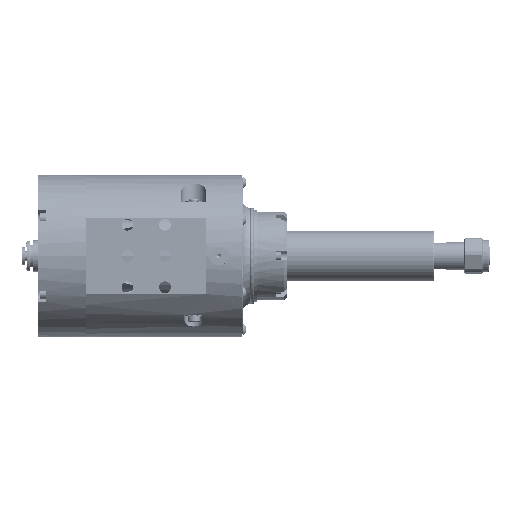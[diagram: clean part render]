
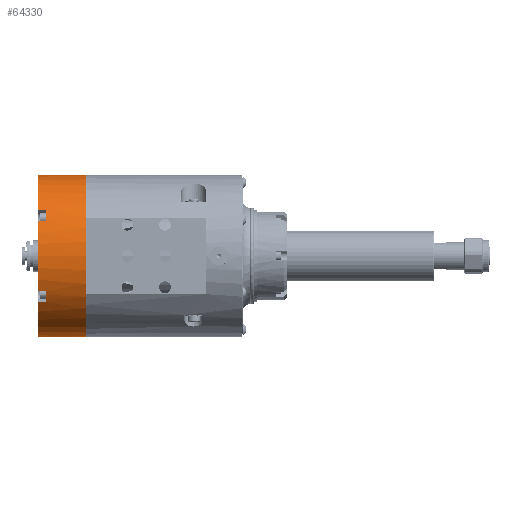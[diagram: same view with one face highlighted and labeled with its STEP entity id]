
A CAD part, front view. The second image highlights one B-rep face of the part: STEP entity #64330.
In plain terms, the highlighted cylindrical face has radius 41.275 mm (diameter 82.55 mm), a partial arc.
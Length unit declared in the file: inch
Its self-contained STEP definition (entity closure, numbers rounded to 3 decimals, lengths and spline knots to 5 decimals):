
#2197 = VERTEX_POINT ( 'NONE', #64555 ) ;
#2997 = CARTESIAN_POINT ( 'NONE',  ( -1.61995, -0.12795, 0.95 ) ) ;
#3017 = DIRECTION ( 'NONE',  ( 1., 0., 0. ) ) ;
#3115 = CARTESIAN_POINT ( 'NONE',  ( 0., 0., 0.79252 ) ) ;
#3523 = EDGE_CURVE ( 'NONE', #49978, #77626, #37363, .T. ) ;
#3529 = DIRECTION ( 'NONE',  ( 0., 0., 1. ) ) ;
#4568 = VECTOR ( 'NONE', #27682, 39.37008 ) ;
#4685 = EDGE_CURVE ( 'NONE', #41003, #58922, #74088, .T. ) ;
#4735 = VECTOR ( 'NONE', #13852, 39.37008 ) ;
#4989 = DIRECTION ( 'NONE',  ( 1., 0., 0. ) ) ;
#6345 = DIRECTION ( 'NONE',  ( 0., 0., 1. ) ) ;
#6980 = CARTESIAN_POINT ( 'NONE',  ( 0.69917, -1.4669, 0.79252 ) ) ;
#7502 = EDGE_CURVE ( 'NONE', #17562, #19701, #18677, .T. ) ;
#7981 = CARTESIAN_POINT ( 'NONE',  ( -0.92079, -1.33895, 0.79252 ) ) ;
#9937 = EDGE_CURVE ( 'NONE', #2197, #49978, #68809, .T. ) ;
#10062 = CARTESIAN_POINT ( 'NONE',  ( 1.625, 0., 0.95 ) ) ;
#10415 = CARTESIAN_POINT ( 'NONE',  ( -0.92079, -1.33895, 0.95 ) ) ;
#10728 = CIRCLE ( 'NONE', #49461, 1.625 ) ;
#11067 = CARTESIAN_POINT ( 'NONE',  ( 0., 0., 0.95 ) ) ;
#11818 = AXIS2_PLACEMENT_3D ( 'NONE', #3115, #95565, #94571 ) ;
#12612 = CARTESIAN_POINT ( 'NONE',  ( 0., 0., 0. ) ) ;
#13326 = ORIENTED_EDGE ( 'NONE', *, *, #77478, .T. ) ;
#13651 = ORIENTED_EDGE ( 'NONE', *, *, #28833, .F. ) ;
#13852 = DIRECTION ( 'NONE',  ( 0., 0., -1. ) ) ;
#14374 = AXIS2_PLACEMENT_3D ( 'NONE', #58986, #20060, #4989 ) ;
#14503 = EDGE_CURVE ( 'NONE', #41003, #92777, #64956, .T. ) ;
#17562 = VERTEX_POINT ( 'NONE', #60333 ) ;
#18036 = ORIENTED_EDGE ( 'NONE', *, *, #93086, .F. ) ;
#18081 = CARTESIAN_POINT ( 'NONE',  ( -0.69917, -1.4669, 0.95 ) ) ;
#18677 = LINE ( 'NONE', #42945, #92883 ) ;
#19057 = CIRCLE ( 'NONE', #38507, 1.625 ) ;
#19093 = EDGE_CURVE ( 'NONE', #19701, #26747, #68082, .T. ) ;
#19338 = CIRCLE ( 'NONE', #61308, 1.625 ) ;
#19701 = VERTEX_POINT ( 'NONE', #60165 ) ;
#20060 = DIRECTION ( 'NONE',  ( 0., 0., 1. ) ) ;
#20228 = CARTESIAN_POINT ( 'NONE',  ( -1.61995, -0.12795, 0.79252 ) ) ;
#21520 = ORIENTED_EDGE ( 'NONE', *, *, #52440, .T. ) ;
#23169 = CARTESIAN_POINT ( 'NONE',  ( -0.92079, -1.33895, 0.95 ) ) ;
#23478 = EDGE_CURVE ( 'NONE', #23969, #2197, #27532, .T. ) ;
#23969 = VERTEX_POINT ( 'NONE', #18081 ) ;
#24519 = CARTESIAN_POINT ( 'NONE',  ( 0., 0., 0.95 ) ) ;
#26747 = VERTEX_POINT ( 'NONE', #41173 ) ;
#26764 = CARTESIAN_POINT ( 'NONE',  ( 1.61995, -0.12795, 0.79252 ) ) ;
#27532 = LINE ( 'NONE', #89165, #4735 ) ;
#27682 = DIRECTION ( 'NONE',  ( 0., 0., 1. ) ) ;
#28440 = AXIS2_PLACEMENT_3D ( 'NONE', #36591, #82061, #35087 ) ;
#28833 = EDGE_CURVE ( 'NONE', #92752, #26747, #72172, .T. ) ;
#30025 = CARTESIAN_POINT ( 'NONE',  ( 0.69917, -1.4669, 0.95 ) ) ;
#30904 = DIRECTION ( 'NONE',  ( 1., 0., 0. ) ) ;
#31828 = DIRECTION ( 'NONE',  ( 0., 0., -1. ) ) ;
#32618 = EDGE_CURVE ( 'NONE', #89399, #40454, #72265, .T. ) ;
#35087 = DIRECTION ( 'NONE',  ( -1., 0., 0. ) ) ;
#36591 = CARTESIAN_POINT ( 'NONE',  ( 0., 0., 0.79252 ) ) ;
#37363 = LINE ( 'NONE', #23169, #93316 ) ;
#37568 = ORIENTED_EDGE ( 'NONE', *, *, #9937, .T. ) ;
#38507 = AXIS2_PLACEMENT_3D ( 'NONE', #11067, #3529, #3017 ) ;
#40018 = VECTOR ( 'NONE', #93971, 39.37008 ) ;
#40454 = VERTEX_POINT ( 'NONE', #30025 ) ;
#41003 = VERTEX_POINT ( 'NONE', #53428 ) ;
#41018 = ORIENTED_EDGE ( 'NONE', *, *, #3523, .T. ) ;
#41173 = CARTESIAN_POINT ( 'NONE',  ( 1.625, 0., 0. ) ) ;
#41445 = CARTESIAN_POINT ( 'NONE',  ( 0.69917, -1.4669, 0.95 ) ) ;
#41464 = ORIENTED_EDGE ( 'NONE', *, *, #7502, .T. ) ;
#42939 = DIRECTION ( 'NONE',  ( 0., 0., 1. ) ) ;
#42945 = CARTESIAN_POINT ( 'NONE',  ( -1.625, 0., 0.95 ) ) ;
#42993 = VERTEX_POINT ( 'NONE', #20228 ) ;
#43255 = ORIENTED_EDGE ( 'NONE', *, *, #19093, .T. ) ;
#43329 = ORIENTED_EDGE ( 'NONE', *, *, #52576, .F. ) ;
#43365 = CARTESIAN_POINT ( 'NONE',  ( 1.61995, -0.12795, 0.95 ) ) ;
#45514 = DIRECTION ( 'NONE',  ( -1., 0., 0. ) ) ;
#46728 = ORIENTED_EDGE ( 'NONE', *, *, #74093, .T. ) ;
#48627 = EDGE_LOOP ( 'NONE', ( #13651, #70415, #13326, #60532, #53633, #21520, #74804, #18036, #92070, #37568, #41018, #43329, #70629, #46728, #41464, #43255 ) ) ;
#49461 = AXIS2_PLACEMENT_3D ( 'NONE', #73644, #50430, #89789 ) ;
#49978 = VERTEX_POINT ( 'NONE', #7981 ) ;
#50430 = DIRECTION ( 'NONE',  ( 0., 0., -1. ) ) ;
#51521 = DIRECTION ( 'NONE',  ( 1., 0., 0. ) ) ;
#51928 = LINE ( 'NONE', #43365, #4568 ) ;
#52440 = EDGE_CURVE ( 'NONE', #92777, #89399, #99764, .T. ) ;
#52576 = EDGE_CURVE ( 'NONE', #72118, #77626, #19057, .T. ) ;
#53426 = EDGE_CURVE ( 'NONE', #72118, #42993, #66117, .T. ) ;
#53428 = CARTESIAN_POINT ( 'NONE',  ( 0.92079, -1.33895, 0.95 ) ) ;
#53633 = ORIENTED_EDGE ( 'NONE', *, *, #14503, .T. ) ;
#54065 = CARTESIAN_POINT ( 'NONE',  ( 0., 0., 0.79252 ) ) ;
#55333 = DIRECTION ( 'NONE',  ( -1., 0., 0. ) ) ;
#57020 = DIRECTION ( 'NONE',  ( 0., 0., -1. ) ) ;
#58301 = VECTOR ( 'NONE', #77876, 39.37008 ) ;
#58617 = DIRECTION ( 'NONE',  ( 0., 0., -1. ) ) ;
#58922 = VERTEX_POINT ( 'NONE', #62713 ) ;
#58986 = CARTESIAN_POINT ( 'NONE',  ( 0., 0., 0.95 ) ) ;
#60165 = CARTESIAN_POINT ( 'NONE',  ( -1.625, 0., 0. ) ) ;
#60333 = CARTESIAN_POINT ( 'NONE',  ( -1.625, 0., 0.79252 ) ) ;
#60532 = ORIENTED_EDGE ( 'NONE', *, *, #4685, .F. ) ;
#61308 = AXIS2_PLACEMENT_3D ( 'NONE', #75489, #6345, #30904 ) ;
#61666 = AXIS2_PLACEMENT_3D ( 'NONE', #12612, #42939, #51521 ) ;
#62713 = CARTESIAN_POINT ( 'NONE',  ( 1.61995, -0.12795, 0.95 ) ) ;
#63502 = CIRCLE ( 'NONE', #11818, 1.625 ) ;
#64330 = ADVANCED_FACE ( 'NONE', ( #77044 ), #93750, .T. ) ;
#64555 = CARTESIAN_POINT ( 'NONE',  ( -0.69917, -1.4669, 0.79252 ) ) ;
#64956 = LINE ( 'NONE', #95782, #85566 ) ;
#66117 = LINE ( 'NONE', #2997, #67634 ) ;
#67634 = VECTOR ( 'NONE', #57020, 39.37008 ) ;
#67664 = DIRECTION ( 'NONE',  ( 0., 0., 1. ) ) ;
#68082 = CIRCLE ( 'NONE', #61666, 1.625 ) ;
#68809 = CIRCLE ( 'NONE', #28440, 1.625 ) ;
#70415 = ORIENTED_EDGE ( 'NONE', *, *, #84082, .T. ) ;
#70556 = CARTESIAN_POINT ( 'NONE',  ( 1.625, 0., 0.79252 ) ) ;
#70629 = ORIENTED_EDGE ( 'NONE', *, *, #53426, .T. ) ;
#71538 = DIRECTION ( 'NONE',  ( 0., 0., -1. ) ) ;
#72118 = VERTEX_POINT ( 'NONE', #81339 ) ;
#72172 = LINE ( 'NONE', #10062, #40018 ) ;
#72265 = LINE ( 'NONE', #41445, #58301 ) ;
#73644 = CARTESIAN_POINT ( 'NONE',  ( 0., 0., 0.79252 ) ) ;
#74088 = CIRCLE ( 'NONE', #14374, 1.625 ) ;
#74093 = EDGE_CURVE ( 'NONE', #42993, #17562, #10728, .T. ) ;
#74804 = ORIENTED_EDGE ( 'NONE', *, *, #32618, .T. ) ;
#75489 = CARTESIAN_POINT ( 'NONE',  ( 0., 0., 0.95 ) ) ;
#75610 = AXIS2_PLACEMENT_3D ( 'NONE', #54065, #31828, #45514 ) ;
#77044 = FACE_OUTER_BOUND ( 'NONE', #48627, .T. ) ;
#77478 = EDGE_CURVE ( 'NONE', #87965, #58922, #51928, .T. ) ;
#77626 = VERTEX_POINT ( 'NONE', #10415 ) ;
#77876 = DIRECTION ( 'NONE',  ( 0., 0., 1. ) ) ;
#81339 = CARTESIAN_POINT ( 'NONE',  ( -1.61995, -0.12795, 0.95 ) ) ;
#82061 = DIRECTION ( 'NONE',  ( 0., 0., -1. ) ) ;
#84082 = EDGE_CURVE ( 'NONE', #92752, #87965, #63502, .T. ) ;
#85199 = CARTESIAN_POINT ( 'NONE',  ( 0.92079, -1.33895, 0.79252 ) ) ;
#85566 = VECTOR ( 'NONE', #71538, 39.37008 ) ;
#87965 = VERTEX_POINT ( 'NONE', #26764 ) ;
#89165 = CARTESIAN_POINT ( 'NONE',  ( -0.69917, -1.4669, 0.95 ) ) ;
#89399 = VERTEX_POINT ( 'NONE', #6980 ) ;
#89789 = DIRECTION ( 'NONE',  ( -1., 0., 0. ) ) ;
#92070 = ORIENTED_EDGE ( 'NONE', *, *, #23478, .T. ) ;
#92752 = VERTEX_POINT ( 'NONE', #70556 ) ;
#92777 = VERTEX_POINT ( 'NONE', #85199 ) ;
#92883 = VECTOR ( 'NONE', #58617, 39.37008 ) ;
#93086 = EDGE_CURVE ( 'NONE', #23969, #40454, #19338, .T. ) ;
#93253 = DIRECTION ( 'NONE',  ( 0., 0., -1. ) ) ;
#93316 = VECTOR ( 'NONE', #67664, 39.37008 ) ;
#93750 = CYLINDRICAL_SURFACE ( 'NONE', #95047, 1.625 ) ;
#93971 = DIRECTION ( 'NONE',  ( 0., 0., -1. ) ) ;
#94571 = DIRECTION ( 'NONE',  ( -1., 0., 0. ) ) ;
#95047 = AXIS2_PLACEMENT_3D ( 'NONE', #24519, #93253, #55333 ) ;
#95565 = DIRECTION ( 'NONE',  ( 0., 0., -1. ) ) ;
#95782 = CARTESIAN_POINT ( 'NONE',  ( 0.92079, -1.33895, 0.95 ) ) ;
#99764 = CIRCLE ( 'NONE', #75610, 1.625 ) ;
